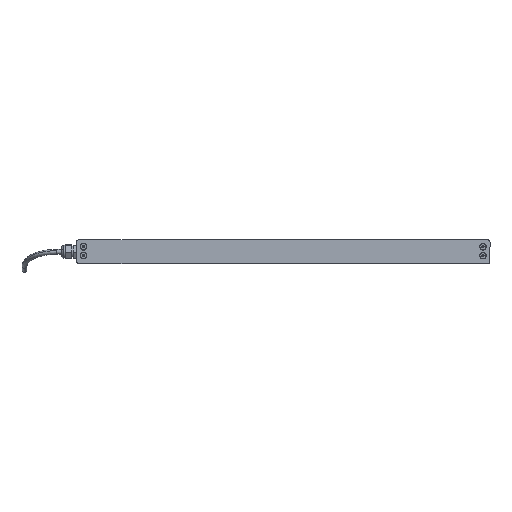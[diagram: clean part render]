
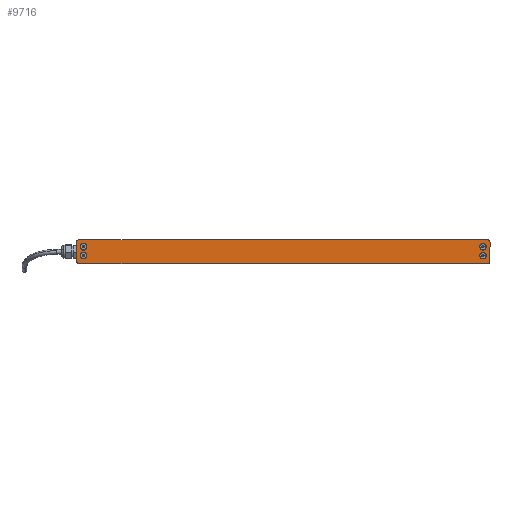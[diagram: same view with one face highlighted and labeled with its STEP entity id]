
A CAD part, left-side view. The second image highlights one B-rep face of the part: STEP entity #9716.
In plain terms, the highlighted planar face has unit normal (-1, 0, 0) as drawn and (0, 0, -1) by its records, which use the part's own axes.
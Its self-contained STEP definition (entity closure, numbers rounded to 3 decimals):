
#201 = DIRECTION ( 'NONE',  ( -1., 0., 0. ) ) ;
#354 = VECTOR ( 'NONE', #15166, 1000. ) ;
#385 = DIRECTION ( 'NONE',  ( -1., 0., 0. ) ) ;
#715 = CARTESIAN_POINT ( 'NONE',  ( -325.7, -6.3, 0. ) ) ;
#874 = CARTESIAN_POINT ( 'NONE',  ( 331.3, 8.5, 0. ) ) ;
#890 = ORIENTED_EDGE ( 'NONE', *, *, #9494, .F. ) ;
#910 = EDGE_CURVE ( 'NONE', #2971, #13022, #1135, .T. ) ;
#973 = ORIENTED_EDGE ( 'NONE', *, *, #10915, .F. ) ;
#982 = CARTESIAN_POINT ( 'NONE',  ( 343., 16., 0. ) ) ;
#1052 = CARTESIAN_POINT ( 'NONE',  ( -339., -20., 0. ) ) ;
#1135 = CIRCLE ( 'NONE', #6970, 4. ) ;
#1146 = PLANE ( 'NONE',  #4472 ) ;
#1242 = DIRECTION ( 'NONE',  ( 1., 0., 0. ) ) ;
#1568 = DIRECTION ( 'NONE',  ( 0., 0., 1. ) ) ;
#1835 = DIRECTION ( 'NONE',  ( -1., 0., 0. ) ) ;
#1960 = CARTESIAN_POINT ( 'NONE',  ( -336.9, -6.3, 0. ) ) ;
#2024 = EDGE_LOOP ( 'NONE', ( #13991, #2081 ) ) ;
#2027 = EDGE_LOOP ( 'NONE', ( #10231, #13131, #5868, #5742, #11711, #4482, #11562, #13071 ) ) ;
#2077 = VERTEX_POINT ( 'NONE', #1960 ) ;
#2081 = ORIENTED_EDGE ( 'NONE', *, *, #6821, .F. ) ;
#2227 = VERTEX_POINT ( 'NONE', #982 ) ;
#2250 = VERTEX_POINT ( 'NONE', #11952 ) ;
#2456 = ORIENTED_EDGE ( 'NONE', *, *, #10320, .F. ) ;
#2496 = CARTESIAN_POINT ( 'NONE',  ( 343., -16., 0. ) ) ;
#2560 = AXIS2_PLACEMENT_3D ( 'NONE', #12205, #11018, #201 ) ;
#2705 = EDGE_CURVE ( 'NONE', #9022, #2250, #14032, .T. ) ;
#2742 = DIRECTION ( 'NONE',  ( 0., 0., 1. ) ) ;
#2792 = EDGE_LOOP ( 'NONE', ( #973, #13829 ) ) ;
#2836 = CARTESIAN_POINT ( 'NONE',  ( 343., -16., 0. ) ) ;
#2971 = VERTEX_POINT ( 'NONE', #15163 ) ;
#3024 = DIRECTION ( 'NONE',  ( 0., 0., -1. ) ) ;
#3047 = DIRECTION ( 'NONE',  ( 0., 0., -1. ) ) ;
#3246 = FACE_BOUND ( 'NONE', #6911, .T. ) ;
#3457 = AXIS2_PLACEMENT_3D ( 'NONE', #874, #8150, #12818 ) ;
#3663 = VERTEX_POINT ( 'NONE', #12089 ) ;
#3784 = DIRECTION ( 'NONE',  ( -1., 0., 0. ) ) ;
#3793 = LINE ( 'NONE', #11037, #6403 ) ;
#3940 = CIRCLE ( 'NONE', #15302, 5.6 ) ;
#3952 = AXIS2_PLACEMENT_3D ( 'NONE', #12135, #14601, #3784 ) ;
#4018 = DIRECTION ( 'NONE',  ( -1., 0., 0. ) ) ;
#4145 = VERTEX_POINT ( 'NONE', #7511 ) ;
#4325 = EDGE_CURVE ( 'NONE', #10586, #9022, #3793, .T. ) ;
#4472 = AXIS2_PLACEMENT_3D ( 'NONE', #4521, #15249, #13832 ) ;
#4482 = ORIENTED_EDGE ( 'NONE', *, *, #13735, .F. ) ;
#4486 = DIRECTION ( 'NONE',  ( 0., 0., -1. ) ) ;
#4492 = CARTESIAN_POINT ( 'NONE',  ( 336.9, 8.5, 0. ) ) ;
#4521 = CARTESIAN_POINT ( 'NONE',  ( 339., 16., 0. ) ) ;
#4713 = CIRCLE ( 'NONE', #3952, 5.6 ) ;
#4889 = CARTESIAN_POINT ( 'NONE',  ( -331.3, 8.5, 0. ) ) ;
#4899 = VECTOR ( 'NONE', #10936, 1000. ) ;
#5129 = VERTEX_POINT ( 'NONE', #8962 ) ;
#5171 = AXIS2_PLACEMENT_3D ( 'NONE', #10244, #3047, #11482 ) ;
#5207 = EDGE_CURVE ( 'NONE', #5129, #13156, #14689, .T. ) ;
#5404 = AXIS2_PLACEMENT_3D ( 'NONE', #4889, #7181, #14905 ) ;
#5619 = AXIS2_PLACEMENT_3D ( 'NONE', #6673, #3024, #1835 ) ;
#5742 = ORIENTED_EDGE ( 'NONE', *, *, #6027, .F. ) ;
#5797 = CARTESIAN_POINT ( 'NONE',  ( -325.7, 8.5, 0. ) ) ;
#5868 = ORIENTED_EDGE ( 'NONE', *, *, #910, .F. ) ;
#6027 = EDGE_CURVE ( 'NONE', #14271, #2971, #8936, .T. ) ;
#6137 = VERTEX_POINT ( 'NONE', #715 ) ;
#6153 = CIRCLE ( 'NONE', #8926, 5.6 ) ;
#6267 = DIRECTION ( 'NONE',  ( 1., 0., 0. ) ) ;
#6297 = CARTESIAN_POINT ( 'NONE',  ( 336.9, -6.3, 0. ) ) ;
#6403 = VECTOR ( 'NONE', #12234, 1000. ) ;
#6673 = CARTESIAN_POINT ( 'NONE',  ( 331.3, -6.3, 0. ) ) ;
#6677 = CIRCLE ( 'NONE', #11188, 4. ) ;
#6821 = EDGE_CURVE ( 'NONE', #13156, #5129, #10868, .T. ) ;
#6911 = EDGE_LOOP ( 'NONE', ( #2456, #11735 ) ) ;
#6970 = AXIS2_PLACEMENT_3D ( 'NONE', #7267, #8530, #1242 ) ;
#7159 = CARTESIAN_POINT ( 'NONE',  ( 339., 20., 0. ) ) ;
#7181 = DIRECTION ( 'NONE',  ( 0., 0., -1. ) ) ;
#7267 = CARTESIAN_POINT ( 'NONE',  ( 339., -16., 0. ) ) ;
#7511 = CARTESIAN_POINT ( 'NONE',  ( 325.7, 8.5, 0. ) ) ;
#7612 = VERTEX_POINT ( 'NONE', #5797 ) ;
#7673 = CARTESIAN_POINT ( 'NONE',  ( -343., -16., 0. ) ) ;
#7951 = EDGE_LOOP ( 'NONE', ( #890, #14334 ) ) ;
#8062 = FACE_OUTER_BOUND ( 'NONE', #2027, .T. ) ;
#8145 = EDGE_CURVE ( 'NONE', #6137, #2077, #12237, .T. ) ;
#8150 = DIRECTION ( 'NONE',  ( 0., 0., -1. ) ) ;
#8530 = DIRECTION ( 'NONE',  ( 0., 0., 1. ) ) ;
#8586 = CARTESIAN_POINT ( 'NONE',  ( -343., -16., 0. ) ) ;
#8649 = VERTEX_POINT ( 'NONE', #7673 ) ;
#8853 = LINE ( 'NONE', #2836, #354 ) ;
#8926 = AXIS2_PLACEMENT_3D ( 'NONE', #10380, #4486, #12677 ) ;
#8936 = LINE ( 'NONE', #14699, #14898 ) ;
#8962 = CARTESIAN_POINT ( 'NONE',  ( 325.7, -6.3, 0. ) ) ;
#9022 = VERTEX_POINT ( 'NONE', #11466 ) ;
#9319 = FACE_BOUND ( 'NONE', #2024, .T. ) ;
#9494 = EDGE_CURVE ( 'NONE', #4145, #15041, #15571, .T. ) ;
#9612 = LINE ( 'NONE', #8586, #4899 ) ;
#9716 = ADVANCED_FACE ( 'NONE', ( #10788, #9319, #15098, #3246, #8062 ), #1146, .T. ) ;
#9857 = CARTESIAN_POINT ( 'NONE',  ( -339., -16., 0. ) ) ;
#10167 = AXIS2_PLACEMENT_3D ( 'NONE', #9857, #2742, #4018 ) ;
#10231 = ORIENTED_EDGE ( 'NONE', *, *, #12587, .F. ) ;
#10244 = CARTESIAN_POINT ( 'NONE',  ( -331.3, -6.3, 0. ) ) ;
#10320 = EDGE_CURVE ( 'NONE', #2077, #6137, #3940, .T. ) ;
#10351 = EDGE_CURVE ( 'NONE', #15041, #4145, #4713, .T. ) ;
#10380 = CARTESIAN_POINT ( 'NONE',  ( -331.3, 8.5, 0. ) ) ;
#10440 = EDGE_CURVE ( 'NONE', #8649, #14271, #15513, .T. ) ;
#10586 = VERTEX_POINT ( 'NONE', #7159 ) ;
#10788 = FACE_BOUND ( 'NONE', #7951, .T. ) ;
#10868 = CIRCLE ( 'NONE', #2560, 5.6 ) ;
#10870 = DIRECTION ( 'NONE',  ( 0., 0., -1. ) ) ;
#10915 = EDGE_CURVE ( 'NONE', #3663, #7612, #6153, .T. ) ;
#10936 = DIRECTION ( 'NONE',  ( 0., -1., 0. ) ) ;
#10949 = DIRECTION ( 'NONE',  ( -1., 0., 0. ) ) ;
#11018 = DIRECTION ( 'NONE',  ( 0., 0., -1. ) ) ;
#11037 = CARTESIAN_POINT ( 'NONE',  ( -339., 20., 0. ) ) ;
#11188 = AXIS2_PLACEMENT_3D ( 'NONE', #14526, #13337, #10949 ) ;
#11466 = CARTESIAN_POINT ( 'NONE',  ( -339., 20., 0. ) ) ;
#11482 = DIRECTION ( 'NONE',  ( -1., 0., 0. ) ) ;
#11562 = ORIENTED_EDGE ( 'NONE', *, *, #2705, .F. ) ;
#11711 = ORIENTED_EDGE ( 'NONE', *, *, #10440, .F. ) ;
#11735 = ORIENTED_EDGE ( 'NONE', *, *, #8145, .F. ) ;
#11887 = CARTESIAN_POINT ( 'NONE',  ( -331.3, -6.3, 0. ) ) ;
#11952 = CARTESIAN_POINT ( 'NONE',  ( -343., 16., 0. ) ) ;
#12089 = CARTESIAN_POINT ( 'NONE',  ( -336.9, 8.5, 0. ) ) ;
#12135 = CARTESIAN_POINT ( 'NONE',  ( 331.3, 8.5, 0. ) ) ;
#12205 = CARTESIAN_POINT ( 'NONE',  ( 331.3, -6.3, 0. ) ) ;
#12234 = DIRECTION ( 'NONE',  ( -1., 0., 0. ) ) ;
#12237 = CIRCLE ( 'NONE', #5171, 5.6 ) ;
#12538 = EDGE_CURVE ( 'NONE', #13022, #2227, #8853, .T. ) ;
#12587 = EDGE_CURVE ( 'NONE', #2227, #10586, #6677, .T. ) ;
#12677 = DIRECTION ( 'NONE',  ( -1., 0., 0. ) ) ;
#12720 = EDGE_CURVE ( 'NONE', #7612, #3663, #13740, .T. ) ;
#12818 = DIRECTION ( 'NONE',  ( -1., 0., 0. ) ) ;
#13022 = VERTEX_POINT ( 'NONE', #2496 ) ;
#13071 = ORIENTED_EDGE ( 'NONE', *, *, #4325, .F. ) ;
#13131 = ORIENTED_EDGE ( 'NONE', *, *, #12538, .F. ) ;
#13156 = VERTEX_POINT ( 'NONE', #6297 ) ;
#13262 = DIRECTION ( 'NONE',  ( -1., 0., 0. ) ) ;
#13337 = DIRECTION ( 'NONE',  ( 0., 0., 1. ) ) ;
#13735 = EDGE_CURVE ( 'NONE', #2250, #8649, #9612, .T. ) ;
#13740 = CIRCLE ( 'NONE', #5404, 5.6 ) ;
#13829 = ORIENTED_EDGE ( 'NONE', *, *, #12720, .F. ) ;
#13832 = DIRECTION ( 'NONE',  ( -1., 0., 0. ) ) ;
#13991 = ORIENTED_EDGE ( 'NONE', *, *, #5207, .F. ) ;
#14032 = CIRCLE ( 'NONE', #14289, 4. ) ;
#14271 = VERTEX_POINT ( 'NONE', #1052 ) ;
#14289 = AXIS2_PLACEMENT_3D ( 'NONE', #14691, #1568, #385 ) ;
#14334 = ORIENTED_EDGE ( 'NONE', *, *, #10351, .F. ) ;
#14526 = CARTESIAN_POINT ( 'NONE',  ( 339., 16., 0. ) ) ;
#14601 = DIRECTION ( 'NONE',  ( 0., 0., -1. ) ) ;
#14689 = CIRCLE ( 'NONE', #5619, 5.6 ) ;
#14691 = CARTESIAN_POINT ( 'NONE',  ( -339., 16., 0. ) ) ;
#14699 = CARTESIAN_POINT ( 'NONE',  ( -339., -20., 0. ) ) ;
#14898 = VECTOR ( 'NONE', #6267, 1000. ) ;
#14905 = DIRECTION ( 'NONE',  ( -1., 0., 0. ) ) ;
#15041 = VERTEX_POINT ( 'NONE', #4492 ) ;
#15098 = FACE_BOUND ( 'NONE', #2792, .T. ) ;
#15163 = CARTESIAN_POINT ( 'NONE',  ( 339., -20., 0. ) ) ;
#15166 = DIRECTION ( 'NONE',  ( 0., 1., 0. ) ) ;
#15249 = DIRECTION ( 'NONE',  ( 0., 0., -1. ) ) ;
#15302 = AXIS2_PLACEMENT_3D ( 'NONE', #11887, #10870, #13262 ) ;
#15513 = CIRCLE ( 'NONE', #10167, 4. ) ;
#15571 = CIRCLE ( 'NONE', #3457, 5.6 ) ;
